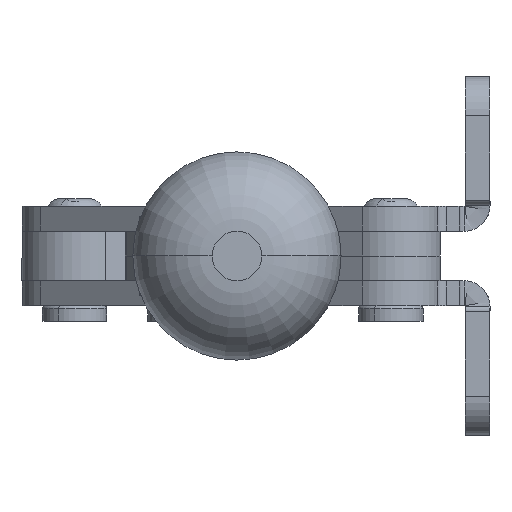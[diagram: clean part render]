
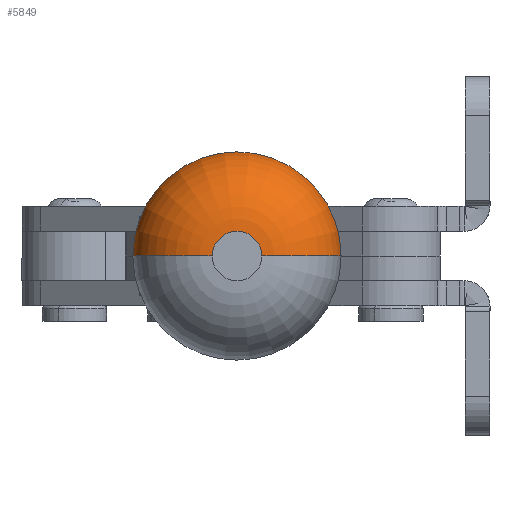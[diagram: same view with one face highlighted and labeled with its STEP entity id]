
A CAD part, left-side view. The second image highlights one B-rep face of the part: STEP entity #5849.
In plain terms, the highlighted toroidal (fillet/blend) face has major radius 2.495 mm and minor radius 8 mm.
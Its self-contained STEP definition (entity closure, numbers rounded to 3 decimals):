
#151 = DIRECTION ( 'NONE',  ( 0., 0., 1. ) ) ;
#2636 = DIRECTION ( 'NONE',  ( 1., 0., 0. ) ) ;
#2770 = CARTESIAN_POINT ( 'NONE',  ( -10.491, 0., 8.251 ) ) ;
#3037 = CARTESIAN_POINT ( 'NONE',  ( -2.495, 0., 0. ) ) ;
#3191 = AXIS2_PLACEMENT_3D ( 'NONE', #14138, #151, #23834 ) ;
#5458 = CARTESIAN_POINT ( 'NONE',  ( -2.495, 0., 8. ) ) ;
#5849 = ADVANCED_FACE ( 'NONE', ( #19737 ), #7753, .T. ) ;
#7753 = TOROIDAL_SURFACE ( 'NONE', #10662, 2.495, 8. ) ;
#8351 = ORIENTED_EDGE ( 'NONE', *, *, #17053, .T. ) ;
#8523 = AXIS2_PLACEMENT_3D ( 'NONE', #12309, #18141, #18270 ) ;
#8952 = CIRCLE ( 'NONE', #3191, 10.491 ) ;
#9829 = AXIS2_PLACEMENT_3D ( 'NONE', #14239, #22131, #20200 ) ;
#10570 = AXIS2_PLACEMENT_3D ( 'NONE', #5458, #22835, #25294 ) ;
#10662 = AXIS2_PLACEMENT_3D ( 'NONE', #17782, #14551, #2636 ) ;
#11936 = EDGE_LOOP ( 'NONE', ( #22821, #25614, #8351, #15581 ) ) ;
#12309 = CARTESIAN_POINT ( 'NONE',  ( 0., 0., 0. ) ) ;
#14138 = CARTESIAN_POINT ( 'NONE',  ( 0., 0., 8.251 ) ) ;
#14239 = CARTESIAN_POINT ( 'NONE',  ( 2.495, 0., 8. ) ) ;
#14260 = CARTESIAN_POINT ( 'NONE',  ( 2.495, 0., 0. ) ) ;
#14551 = DIRECTION ( 'NONE',  ( 0., 0., 1. ) ) ;
#14552 = EDGE_CURVE ( 'NONE', #23407, #15588, #14728, .T. ) ;
#14728 = CIRCLE ( 'NONE', #10570, 8. ) ;
#14985 = EDGE_CURVE ( 'NONE', #15015, #23407, #24664, .T. ) ;
#15015 = VERTEX_POINT ( 'NONE', #14260 ) ;
#15581 = ORIENTED_EDGE ( 'NONE', *, *, #15833, .F. ) ;
#15588 = VERTEX_POINT ( 'NONE', #2770 ) ;
#15833 = EDGE_CURVE ( 'NONE', #15588, #19979, #8952, .T. ) ;
#17053 = EDGE_CURVE ( 'NONE', #15015, #19979, #19367, .T. ) ;
#17157 = CARTESIAN_POINT ( 'NONE',  ( 10.491, 0., 8.251 ) ) ;
#17782 = CARTESIAN_POINT ( 'NONE',  ( 0., 0., 8. ) ) ;
#18141 = DIRECTION ( 'NONE',  ( 0., 0., -1. ) ) ;
#18270 = DIRECTION ( 'NONE',  ( 1., 0., 0. ) ) ;
#19367 = CIRCLE ( 'NONE', #9829, 8. ) ;
#19737 = FACE_OUTER_BOUND ( 'NONE', #11936, .T. ) ;
#19979 = VERTEX_POINT ( 'NONE', #17157 ) ;
#20200 = DIRECTION ( 'NONE',  ( 0., 0., -1. ) ) ;
#22131 = DIRECTION ( 'NONE',  ( 0., -1., 0. ) ) ;
#22821 = ORIENTED_EDGE ( 'NONE', *, *, #14552, .F. ) ;
#22835 = DIRECTION ( 'NONE',  ( 0., 1., 0. ) ) ;
#23407 = VERTEX_POINT ( 'NONE', #3037 ) ;
#23834 = DIRECTION ( 'NONE',  ( 1., 0., 0. ) ) ;
#24664 = CIRCLE ( 'NONE', #8523, 2.495 ) ;
#25294 = DIRECTION ( 'NONE',  ( -1., 0., 0. ) ) ;
#25614 = ORIENTED_EDGE ( 'NONE', *, *, #14985, .F. ) ;
